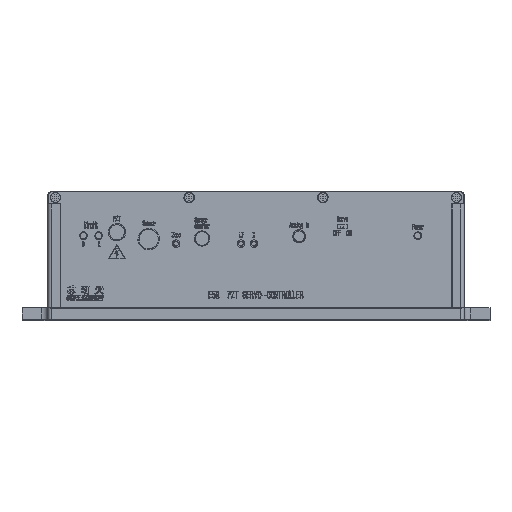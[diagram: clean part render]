
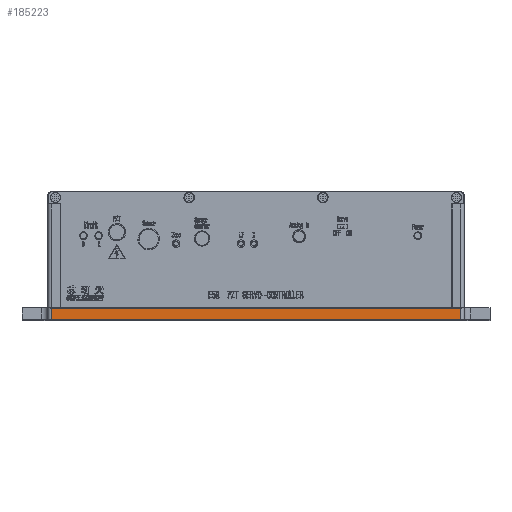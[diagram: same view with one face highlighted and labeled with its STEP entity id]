
A CAD part, top view. The second image highlights one B-rep face of the part: STEP entity #185223.
In plain terms, the highlighted planar face has unit normal (0, 0, 1).
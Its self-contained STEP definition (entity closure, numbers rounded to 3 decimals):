
#1455 = CARTESIAN_POINT ( 'NONE',  ( 95., -59.5, 3.75 ) ) ;
#6048 = VERTEX_POINT ( 'NONE', #115186 ) ;
#14076 = EDGE_CURVE ( 'NONE', #173059, #174155, #125678, .T. ) ;
#16325 = DIRECTION ( 'NONE',  ( -1., 0., 0. ) ) ;
#29473 = DIRECTION ( 'NONE',  ( 0., 0., -1. ) ) ;
#37695 = LINE ( 'NONE', #85045, #122814 ) ;
#43824 = CARTESIAN_POINT ( 'NONE',  ( 95., -59.5, 3.75 ) ) ;
#50705 = ORIENTED_EDGE ( 'NONE', *, *, #66409, .F. ) ;
#53714 = CARTESIAN_POINT ( 'NONE',  ( 0., -54.3, 3.75 ) ) ;
#55916 = CARTESIAN_POINT ( 'NONE',  ( 95., -56.9, 3.75 ) ) ;
#60687 = VECTOR ( 'NONE', #124050, 1000. ) ;
#66409 = EDGE_CURVE ( 'NONE', #6048, #84537, #174662, .T. ) ;
#69980 = DIRECTION ( 'NONE',  ( 0., -1., 0. ) ) ;
#84537 = VERTEX_POINT ( 'NONE', #143153 ) ;
#85045 = CARTESIAN_POINT ( 'NONE',  ( -95., -32.75, 3.75 ) ) ;
#102298 = LINE ( 'NONE', #55916, #111269 ) ;
#102344 = EDGE_CURVE ( 'NONE', #84537, #173059, #102298, .T. ) ;
#111269 = VECTOR ( 'NONE', #155380, 1000. ) ;
#115186 = CARTESIAN_POINT ( 'NONE',  ( -95., -54.3, 3.75 ) ) ;
#122814 = VECTOR ( 'NONE', #69980, 1000. ) ;
#123210 = DIRECTION ( 'NONE',  ( 1., 0., 0. ) ) ;
#124050 = DIRECTION ( 'NONE',  ( -1., 0., 0. ) ) ;
#125678 = LINE ( 'NONE', #179805, #60687 ) ;
#129943 = ORIENTED_EDGE ( 'NONE', *, *, #170042, .T. ) ;
#139424 = FACE_OUTER_BOUND ( 'NONE', #180813, .T. ) ;
#143153 = CARTESIAN_POINT ( 'NONE',  ( 95., -54.3, 3.75 ) ) ;
#152997 = AXIS2_PLACEMENT_3D ( 'NONE', #43824, #29473, #16325 ) ;
#155380 = DIRECTION ( 'NONE',  ( 0., -1., 0. ) ) ;
#159541 = PLANE ( 'NONE',  #152997 ) ;
#161660 = ORIENTED_EDGE ( 'NONE', *, *, #14076, .F. ) ;
#170042 = EDGE_CURVE ( 'NONE', #6048, #174155, #37695, .T. ) ;
#170121 = VECTOR ( 'NONE', #123210, 1000. ) ;
#172453 = ORIENTED_EDGE ( 'NONE', *, *, #102344, .F. ) ;
#173059 = VERTEX_POINT ( 'NONE', #1455 ) ;
#174155 = VERTEX_POINT ( 'NONE', #181715 ) ;
#174662 = LINE ( 'NONE', #53714, #170121 ) ;
#179805 = CARTESIAN_POINT ( 'NONE',  ( 0., -59.5, 3.75 ) ) ;
#180813 = EDGE_LOOP ( 'NONE', ( #129943, #161660, #172453, #50705 ) ) ;
#181715 = CARTESIAN_POINT ( 'NONE',  ( -95., -59.5, 3.75 ) ) ;
#185223 = ADVANCED_FACE ( 'NONE', ( #139424 ), #159541, .F. ) ;
